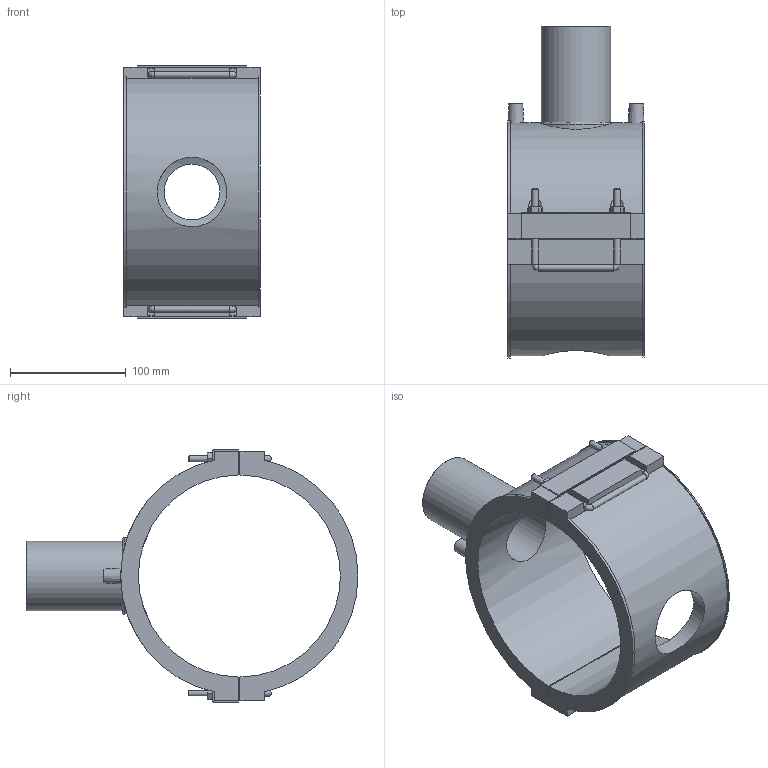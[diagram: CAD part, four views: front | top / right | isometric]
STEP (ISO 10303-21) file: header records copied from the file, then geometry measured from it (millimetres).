
FILE_DESCRIPTION(/* description */ ('PLASSON BRANCH SADDLE 6''''DIPS x 2''''IPS'),/* implementation_level */ '2;1');
FILE_NAME(/* name */ 'C:\Dropbox\KIMPROJECTS-Inventor 2019\99-16-3568-Processing Inch\ASTM ElectroFusion 2021\5958D (1)\5958DB03060020.ipt.stp',/* time_stamp */ '2021-08-30T09:54:10+03:00',/* author */ ('KIM'),/* organization */ (''),/* preprocessor_version */ 'ST-DEVELOPER v17.2',/* originating_system */ 'Autodesk Inventor 2019',/* authorisation */ '');
FILE_SCHEMA (('AUTOMOTIVE_DESIGN { 1 0 10303 214 3 1 1 }'));
Length unit declared in the file: inch
Products named in the file (1): 5958DB03060020
Bounding box: 118.11 x 286.74 x 217.9 mm (x, y, z)
Volume: 1053609.1 mm3; surface area: 217931 mm2
Topology: 4 solids, 4 shells, 170 faces, 435 edges, 285 vertices
Faces by surface type: plane 117, cylinder 43, cone 5, torus 5
Full cylindrical faces by diameter (mm): 4 x2, 4.2 x2, 5.4 x10, 10 x2, 48.08 x1, 60.1 x2
Entity records: 5613 total; most frequent: CARTESIAN_POINT 1378, ORIENTED_EDGE 870, DIRECTION 859, EDGE_CURVE 435, LINE 299, VECTOR 299, VERTEX_POINT 285, AXIS2_PLACEMENT_3D 280
